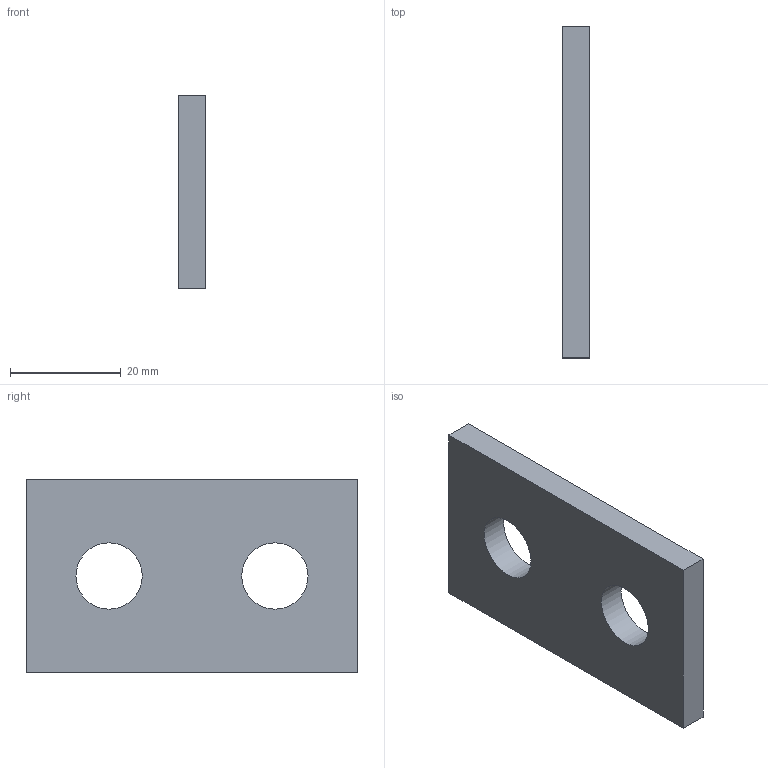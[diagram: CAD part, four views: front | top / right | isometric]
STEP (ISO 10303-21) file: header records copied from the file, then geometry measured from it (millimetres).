
FILE_DESCRIPTION (( 'STEP AP203' ), '1' );
FILE_NAME ('ORW-72.24.10.010 砑鳧罻.STEP', '2025-12-17T13:01:23', ( '燴僽樥' ), ( '' ), 'SwSTEP 2.0', 'SolidWorks 2025', '' );
FILE_SCHEMA (( 'CONFIG_CONTROL_DESIGN' ));
Length unit declared in the file: millimetre
Products named in the file (1): ORW-72.24.10.010 Планка
Bounding box: 5 x 60 x 35 mm (x, y, z)
Volume: 9369 mm3; surface area: 5074.6 mm2
Topology: 1 solids, 1 shells, 8 faces, 18 edges, 12 vertices
Faces by surface type: plane 6, cylinder 2
Full cylindrical faces by diameter (mm): 12 x2
Entity records: 301 total; most frequent: DIRECTION 38, CARTESIAN_POINT 37, ORIENTED_EDGE 32, EDGE_CURVE 16, EDGE_LOOP 14, AXIS2_PLACEMENT_3D 13, LINE 12, VECTOR 12
